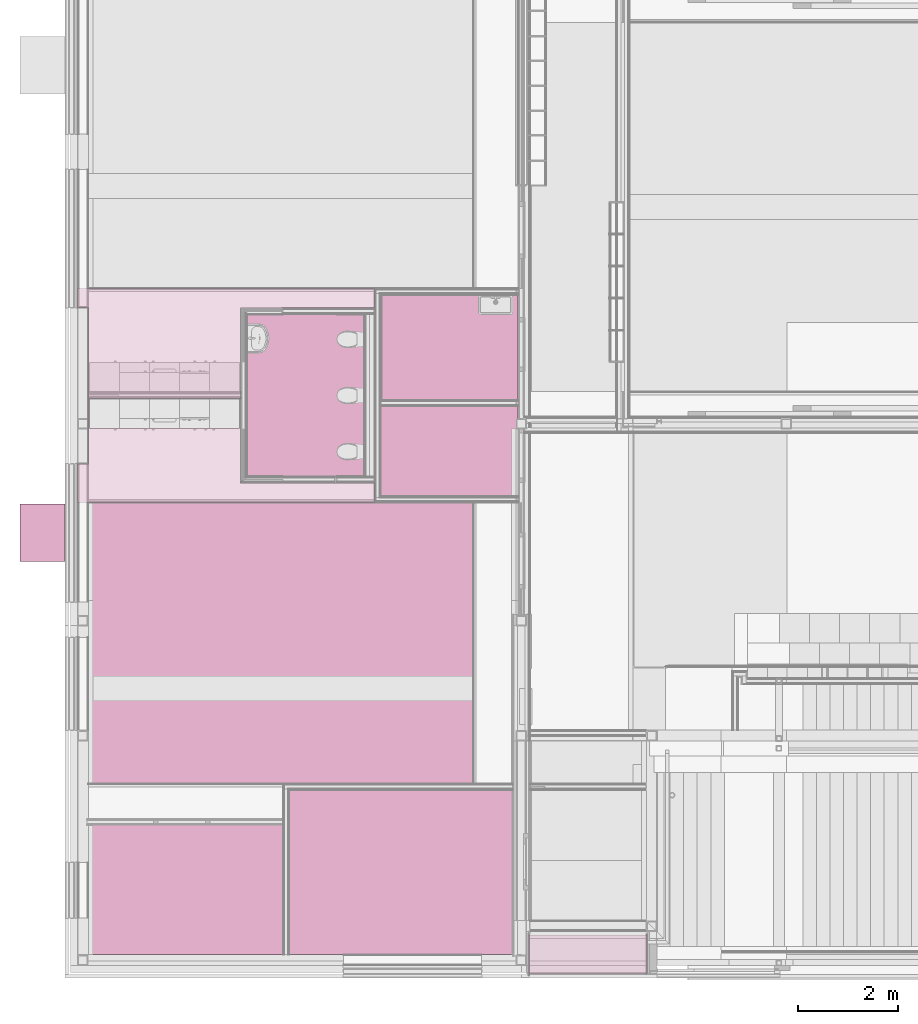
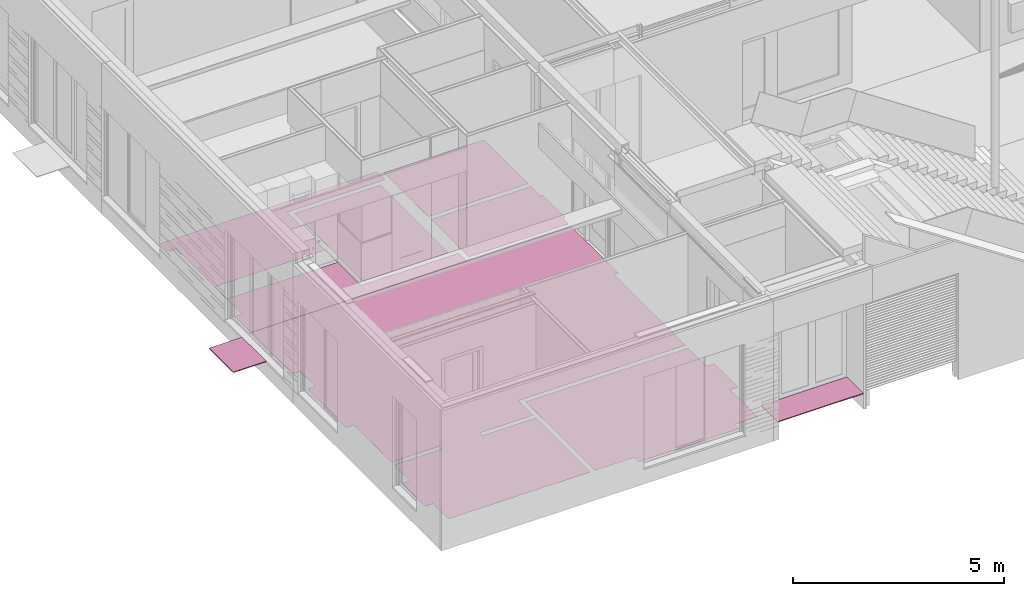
# One storey, part 123 of 165: 8 furnishings.
"""IFC2X3 building model written with IfcOpenShell, lengths in millimetres."""

from ifc_helpers import new_model, entity, si_unit, converted_unit, derived_unit, money_unit, direction, frame, origin_with_axes, place, context, subcontext, project, spatial, faceted_brep, material, type_object, element, save


model = new_model("IFC2X3")

# Units and contexts
model_context = context("Model", 3, precision=0.01, world=origin_with_axes(), true_north=direction((0.0, 1.0)))
body_context = subcontext(model_context, "Body", "Model", "MODEL_VIEW")
ifc_project = project(units=[si_unit("LENGTHUNIT", "METRE", prefix="MILLI"), si_unit("AREAUNIT", "SQUARE_METRE"), si_unit("VOLUMEUNIT", "CUBIC_METRE"), converted_unit("PLANEANGLEUNIT", "DEGREE", entity("IfcPlaneAngleMeasure", 0.0174532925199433), si_unit("PLANEANGLEUNIT", "RADIAN"), dimensions=[0, 0, 0, 0, 0, 0, 0]), money_unit("EUR"), converted_unit("TIMEUNIT", "Year", entity("IfcTimeMeasure", 31556926.0), si_unit("TIMEUNIT", "SECOND"), dimensions=[0, 0, 1, 0, 0, 0, 0]), si_unit("MASSUNIT", "GRAM", prefix="KILO"), si_unit("THERMODYNAMICTEMPERATUREUNIT", "DEGREE_CELSIUS"), si_unit("LUMINOUSINTENSITYUNIT", "LUMEN"), si_unit("ENERGYUNIT", "JOULE", prefix="MEGA"), derived_unit("THERMALCONDUCTANCEUNIT", [(si_unit("POWERUNIT", "WATT"), 1), (si_unit("LENGTHUNIT", "METRE"), -1), (si_unit("THERMODYNAMICTEMPERATUREUNIT", "KELVIN"), -1)]), derived_unit("SPECIFICHEATCAPACITYUNIT", [(si_unit("ENERGYUNIT", "JOULE"), 1), (si_unit("MASSUNIT", "GRAM", prefix="KILO"), -1), (si_unit("THERMODYNAMICTEMPERATUREUNIT", "KELVIN"), -1)]), derived_unit("MASSDENSITYUNIT", [(si_unit("MASSUNIT", "GRAM", prefix="KILO"), 1), (si_unit("VOLUMEUNIT", "CUBIC_METRE"), -1)])], contexts=[model_context])

# Site, building, storey
site_placement = place(None, origin_with_axes())
site = spatial("IfcSite", under=ifc_project, at=site_placement, Name="Site", CompositionType="ELEMENT")
building_placement = place(site_placement, origin_with_axes())
building = spatial("IfcBuilding", under=site, at=building_placement, Name="Naam gebouw", CompositionType="ELEMENT")
storey_placement = place(building_placement, origin_with_axes())
storey = spatial("IfcBuildingStorey", under=building, at=storey_placement, Name="Begane grond", CompositionType="ELEMENT", Elevation=0.0)

# Furnishings
ifc_material_1 = material(Name="48 vloeivloer Bolidt")
furniture_type_1 = type_object("IfcFurnitureType", Name="48 vloeivloer Bolidt 2", AssemblyPlace="NOTDEFINED")
furnishing_1_placement = place(storey_placement, frame((6049.999809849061, 13380.00046864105, 0.0), z_axis=(0.0, 0.0, 1.0), x_axis=(1.0, 0.0, 0.0)))
element("IfcFurnishingElement", 1, at=furnishing_1_placement, inside=storey, type_object=furniture_type_1, material=ifc_material_1, Name="72_43 vloeivloer", ObjectType="SHELF", context=body_context, shape_type="Brep", body=[
    faceted_brep([(0.0, 0.0, 2.0), (0.0, 0.0, 0.0), (-0.0002925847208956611, -2100.000208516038, 0.0), (-0.0002925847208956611, -2100.000208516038, 2.0), (2737.500621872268, -0.0004388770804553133, 2.0), (2737.500621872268, -0.0004388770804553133, 0.0), (2737.499890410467, -2100.000354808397, 0.0), (2737.499890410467, -2100.000354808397, 2.0)], [[[0, 1, 2, 3]], [[4, 5, 1, 0]], [[2, 1, 5, 6]], [[3, 2, 6, 7]], [[4, 0, 3, 7]], [[7, 6, 5, 4]]]),
])
furnishing_2_placement = place(storey_placement, frame((3374.999544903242, 12990.00043182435, 0.0), z_axis=(0.0, 0.0, 1.0), x_axis=(1.0, 0.0, 0.0)))
element("IfcFurnishingElement", 2, at=furnishing_2_placement, inside=storey, type_object=furniture_type_1, material=ifc_material_1, Name="72_44 vloeivloer", ObjectType="SHELF", context=body_context, shape_type="Brep", body=[
    faceted_brep([(0.0, 0.0, 2.0), (0.0, 0.0, 0.0), (-0.0004214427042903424, -3240.000235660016, 0.0), (-0.0004214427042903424, -3240.000235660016, 2.0), (2349.984046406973, 0.0, 2.0), (2349.984046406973, 0.0, 0.0), (2349.983624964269, -3240.000516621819, 0.0), (2349.983624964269, -3240.000516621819, 2.0)], [[[0, 1, 2, 3]], [[4, 5, 1, 0]], [[2, 1, 5, 6]], [[3, 2, 6, 7]], [[4, 0, 3, 7]], [[7, 6, 5, 4]]]),
])
ifc_material_2 = material(Name="43 Forbo Walton")
furniture_type_2 = type_object("IfcFurnitureType", Name="43 Forbo Walton 2", AssemblyPlace="NOTDEFINED")
furnishing_3_placement = place(storey_placement, frame((4224.999989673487, 213.9999547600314, 0.0), z_axis=(0.0, 0.0, 1.0), x_axis=(1.0, 0.0, 0.0)))
element("IfcFurnishingElement", 3, at=furnishing_3_placement, inside=storey, type_object=furniture_type_2, material=ifc_material_2, Name="72_43 marmoleum", ObjectType="SHELF", context=body_context, shape_type="Brep", body=[
    faceted_brep([(0.0, 0.0, 2.0), (0.0, 0.0, 0.0), (1081.000010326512, 0.0, 0.0), (1081.000010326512, 0.0, 2.0), (0.0, 3285.995794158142, 2.0), (0.0, 3285.995794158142, 0.0), (4449.999962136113, 3285.995794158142, 0.0), (4449.999962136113, 2419.217320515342, 0.0), (4668.000010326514, 2419.217320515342, 0.0), (4668.000010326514, 1289.217179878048, 0.0), (4449.999962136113, 1289.217179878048, 0.0), (4449.999315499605, 0.0, 0.0), (3831.000010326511, 0.0, 0.0), (3831.000010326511, -213.9999547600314, 0.0), (1081.000010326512, -213.9999547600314, 0.0), (1081.000010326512, -213.9999547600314, 2.0), (3831.000010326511, -213.9999547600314, 2.0), (3831.000010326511, 0.0, 2.0), (4449.999315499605, 0.0, 2.0), (4449.999962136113, 1289.217179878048, 2.0), (4668.000010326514, 1289.217179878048, 2.0), (4668.000010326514, 2419.217320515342, 2.0), (4449.999962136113, 2419.217320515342, 2.0), (4449.999962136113, 3285.995794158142, 2.0)], [[[0, 1, 2, 3]], [[4, 5, 1, 0]], [[2, 1, 5, 6, 7, 8, 9, 10, 11, 12, 13, 14]], [[3, 2, 14, 15]], [[4, 0, 3, 15, 16, 17, 18, 19, 20, 21, 22, 23]], [[23, 6, 5, 4]], [[22, 7, 6, 23]], [[21, 8, 7, 22]], [[20, 9, 8, 21]], [[19, 10, 9, 20]], [[18, 11, 10, 19]], [[17, 12, 11, 18]], [[16, 13, 12, 17]], [[15, 14, 13, 16]]]),
])
furnishing_4_placement = place(storey_placement, frame((8787.499777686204, 11155.00009908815, 0.0), z_axis=(0.0, 0.0, 1.0), x_axis=(1.0, 0.0, 0.0)))
element("IfcFurnishingElement", 4, at=furnishing_4_placement, inside=storey, type_object=furniture_type_2, material=ifc_material_2, Name="72_43 marmoleum", ObjectType="SHELF", context=body_context, shape_type="Brep", body=[
    faceted_brep([(0.0, 0.0, 2.0), (0.0, 0.0, 0.0), (-2737.500328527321, -0.0002262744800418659, 0.0), (-2737.500328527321, -0.0002262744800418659, 2.0), (0.0002262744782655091, -444.9999893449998, 2.0), (0.0002262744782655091, -444.9999893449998, 0.0), (62.50017901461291, -444.9999893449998, 0.0), (62.50017901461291, -1524.999932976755, 0.0), (0.0002262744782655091, -1524.999932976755, 0.0), (0.0002262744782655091, -1794.999918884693, 0.0), (-2737.500215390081, -1795.000145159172, 0.0), (-2737.500215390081, -1795.000145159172, 2.0), (0.0002262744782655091, -1794.999918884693, 2.0), (0.0002262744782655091, -1524.999932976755, 2.0), (62.50017901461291, -1524.999932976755, 2.0), (62.50017901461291, -444.9999893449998, 2.0)], [[[0, 1, 2, 3]], [[4, 5, 1, 0]], [[2, 1, 5, 6, 7, 8, 9, 10]], [[3, 2, 10, 11]], [[4, 0, 3, 11, 12, 13, 14, 15]], [[15, 6, 5, 4]], [[14, 7, 6, 15]], [[13, 8, 7, 14]], [[12, 9, 8, 13]], [[11, 10, 9, 12]]]),
])
furnishing_5_placement = place(storey_placement, frame((-1.25868329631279e-05, 4694.999999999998, 0.0), z_axis=(0.0, 0.0, 1.0), x_axis=(1.0, 0.0, 0.0)))
element("IfcFurnishingElement", 5, at=furnishing_5_placement, inside=storey, type_object=furniture_type_2, material=ifc_material_2, Name="72_43 marmoleum", ObjectType="SHELF", context=body_context, shape_type="Brep", body=[
    faceted_brep([(0.0, 0.0, 2.0), (0.0, 0.0, 0.0), (213.9998942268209, 0.0, 0.0), (213.9998942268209, 0.0, 2.0), (0.0, 1850.0, 2.0), (0.0, 1850.0, 0.0), (213.9998942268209, 1850.0, 0.0), (213.9998942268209, 2560.0, 0.0), (0.0, 2560.0, 0.0), (0.0, 4539.985707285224, 0.0), (8787.499981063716, 4539.999844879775, 0.0), (8787.499981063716, 2310.000101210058, 0.0), (8675.000145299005, 2310.000101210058, 0.0), (8675.000145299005, -1070.004198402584, 0.0), (4100.000071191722, -1070.004198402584, 0.0), (4100.000071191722, -1770.004310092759, 0.0), (2643.999961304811, -1770.004310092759, 0.0), (2643.999961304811, -1895.004402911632, 0.0), (4100.000071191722, -1895.004402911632, 0.0), (4100.000071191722, -4480.999999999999, 0.0), (213.9998942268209, -4480.999999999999, 0.0), (213.9998942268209, -3744.999999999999, 0.0), (0.0, -3744.999999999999, 0.0), (0.0, -2644.999999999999, 0.0), (213.9998942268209, -2644.999999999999, 0.0), (213.9998942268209, -1895.004402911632, 0.0), (1513.999955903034, -1895.004402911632, 0.0), (1513.999955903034, -1770.004310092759, 0.0), (213.9998942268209, -1770.004310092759, 0.0), (213.9998942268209, -1770.004310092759, 2.0), (1513.999955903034, -1770.004310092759, 2.0), (1513.999955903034, -1895.004402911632, 2.0), (213.9998942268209, -1895.004402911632, 2.0), (213.9998942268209, -2644.999999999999, 2.0), (0.0, -2644.999999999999, 2.0), (0.0, -3744.999999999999, 2.0), (213.9998942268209, -3744.999999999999, 2.0), (213.9998942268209, -4480.999999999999, 2.0), (4100.000071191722, -4480.999999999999, 2.0), (4100.000071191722, -1895.004402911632, 2.0), (2643.999961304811, -1895.004402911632, 2.0), (2643.999961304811, -1770.004310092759, 2.0), (4100.000071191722, -1770.004310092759, 2.0), (4100.000071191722, -1070.004198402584, 2.0), (8675.000145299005, -1070.004198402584, 2.0), (8675.000145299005, 2310.000101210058, 2.0), (8787.499981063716, 2310.000101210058, 2.0), (8787.499981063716, 4539.999844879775, 2.0), (0.0, 4539.985707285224, 2.0), (0.0, 2560.0, 2.0), (213.9998942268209, 2560.0, 2.0), (213.9998942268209, 1850.0, 2.0)], [[[0, 1, 2, 3]], [[4, 5, 1, 0]], [[2, 1, 5, 6, 7, 8, 9, 10, 11, 12, 13, 14, 15, 16, 17, 18, 19, 20, 21, 22, 23, 24, 25, 26, 27, 28]], [[3, 2, 28, 29]], [[4, 0, 3, 29, 30, 31, 32, 33, 34, 35, 36, 37, 38, 39, 40, 41, 42, 43, 44, 45, 46, 47, 48, 49, 50, 51]], [[51, 6, 5, 4]], [[50, 7, 6, 51]], [[49, 8, 7, 50]], [[48, 9, 8, 49]], [[47, 10, 9, 48]], [[46, 11, 10, 47]], [[45, 12, 11, 46]], [[44, 13, 12, 45]], [[43, 14, 13, 44]], [[42, 15, 14, 43]], [[41, 16, 15, 42]], [[40, 17, 16, 41]], [[39, 18, 17, 40]], [[38, 19, 18, 39]], [[37, 20, 19, 38]], [[36, 21, 20, 37]], [[35, 22, 21, 36]], [[34, 23, 22, 35]], [[33, 24, 23, 34]], [[32, 25, 24, 33]], [[31, 26, 25, 32]], [[30, 27, 26, 31]], [[29, 28, 27, 30]]]),
])
ifc_material_3 = material(Name="43 Forbo Striato")
furniture_type_3 = type_object("IfcFurnitureType", Name="43 Forbo Striato  2", AssemblyPlace="NOTDEFINED")
furnishing_6_placement = place(storey_placement, frame((0.0, 9234.999990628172, 0.0), z_axis=(0.0, 0.0, 1.0), x_axis=(1.0, 0.0, 0.0)))
element("IfcFurnishingElement", 6, at=furnishing_6_placement, inside=storey, type_object=furniture_type_3, material=ifc_material_3, Name="72_43 marmoleum", ObjectType="SHELF", context=body_context, shape_type="Brep", body=[
    faceted_brep([(5924.982645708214, 4270.000283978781, 2.000000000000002), (0.0, 4270.000283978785, 2.000000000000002), (0.0, 3889.999820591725, 2.000000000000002), (213.9999999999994, 3889.999820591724, 2.000000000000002), (213.9999999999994, 770.0000093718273, 2.000000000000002), (0.0, 770.0000093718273, 2.000000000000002), (0.0, 0.0, 2.000000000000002), (5924.99954818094, 0.0, 2.000000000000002), (5924.99954818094, 390.0001757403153, 2.000000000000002), (3249.984146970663, 390.0001757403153, 2.000000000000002), (3250.000077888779, 3880.000707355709, 2.000000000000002), (5924.998572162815, 3880.109977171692, 2.000000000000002), (232.0000001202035, 1490.500715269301, 2.000000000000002), (232.0000001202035, 2072.500715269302, 2.000000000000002), (832.0000001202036, 2072.500715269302, 2.000000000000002), (3232.000000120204, 2072.500715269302, 2.000000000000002), (3232.000000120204, 1490.500715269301, 2.000000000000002), (832.0000001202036, 1490.500715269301, 2.000000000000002), (5924.982645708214, 4270.000283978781, 0.0), (0.0, 4270.000283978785, 0.0), (0.0, 3889.999820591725, 0.0), (213.9999999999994, 3889.999820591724, 0.0), (213.9999999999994, 770.0000093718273, 0.0), (0.0, 770.0000093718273, 0.0), (0.0, 0.0, 0.0), (5924.99954818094, 0.0, 0.0), (5924.99954818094, 390.0001757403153, 0.0), (3249.984146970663, 390.0001757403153, 0.0), (3250.000077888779, 3880.000707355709, 0.0), (5924.998572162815, 3880.109977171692, 0.0), (232.0000001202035, 1490.500715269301, 0.0), (232.0000001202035, 2072.500715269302, 0.0), (832.0000001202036, 2072.500715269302, 0.0), (3232.000000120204, 2072.500715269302, 0.0), (3232.000000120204, 1490.500715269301, 0.0), (832.0000001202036, 1490.500715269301, 0.0)], [[[0, 1, 2, 3, 4, 5, 6, 7, 8, 9, 10, 11], [12, 13, 14, 15, 16, 17]], [[1, 0, 18, 19]], [[2, 1, 19, 20]], [[3, 2, 20, 21]], [[4, 3, 21, 22]], [[5, 4, 22, 23]], [[6, 5, 23, 24]], [[7, 6, 24, 25]], [[8, 7, 25, 26]], [[9, 8, 26, 27]], [[10, 9, 27, 28]], [[11, 10, 28, 29]], [[0, 11, 29, 18]], [[13, 12, 30, 31]], [[14, 13, 31, 32, 33, 15]], [[16, 15, 33, 34]], [[35, 30, 12, 17, 16, 34]], [[18, 29, 28, 27, 26, 25, 24, 23, 22, 21, 20, 19], [30, 35, 34, 33, 32, 31]]]),
])
ifc_material_4 = material(Name="Vloerafwerking - schoonloopzone 1")
furniture_type_4 = type_object("IfcFurnitureType", Name="Vloerafwerking - schoonloopzone 1 25", AssemblyPlace="NOTDEFINED")
furnishing_7_placement = place(storey_placement, frame((11355.5, 607.9992969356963, -20.0), z_axis=(0.0, 0.0, 1.0), x_axis=(1.0, 0.0, 0.0)))
element("IfcFurnishingElement", 7, at=furnishing_7_placement, inside=storey, type_object=furniture_type_4, material=ifc_material_4, Name="72_43 schoonloop zone 1", ObjectType="SHELF", context=body_context, shape_type="Brep", body=[
    faceted_brep([(0.0, 0.0, 0.0), (0.0, 0.0, -25.0), (-2351.5, 0.0, -25.0), (-2351.5, 0.0, 0.0), (0.0, -781.9994645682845, 0.0), (0.0, -781.9994645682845, -25.0), (-2351.5, -781.9994645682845, -25.0), (-2351.5, -781.9994645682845, 0.0)], [[[0, 1, 2, 3]], [[4, 5, 1, 0]], [[2, 1, 5, 6]], [[3, 2, 6, 7]], [[4, 0, 3, 7]], [[7, 6, 5, 4]]]),
])
furnishing_8_placement = place(storey_placement, frame((-249.9999999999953, 9204.999999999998, -20.0), z_axis=(0.0, 0.0, 1.0), x_axis=(1.0, 0.0, 0.0)))
element("IfcFurnishingElement", 8, at=furnishing_8_placement, inside=storey, type_object=furniture_type_4, material=ifc_material_4, Name="72_43 schoonloop zone 1", ObjectType="SHELF", context=body_context, shape_type="Brep", body=[
    faceted_brep([(0.0, 0.0, 0.0), (0.0, 0.0, -25.0), (-899.9999999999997, 0.0, -25.0), (-899.9999999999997, 0.0, 0.0), (0.0, -1149.999999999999, 0.0), (0.0, -1149.999999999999, -25.0), (-900.0000000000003, -1149.999999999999, -25.0), (-900.0000000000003, -1149.999999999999, 0.0)], [[[0, 1, 2, 3]], [[4, 5, 1, 0]], [[2, 1, 5, 6]], [[3, 2, 6, 7]], [[4, 0, 3, 7]], [[7, 6, 5, 4]]]),
])

save(model, "model.ifc")
